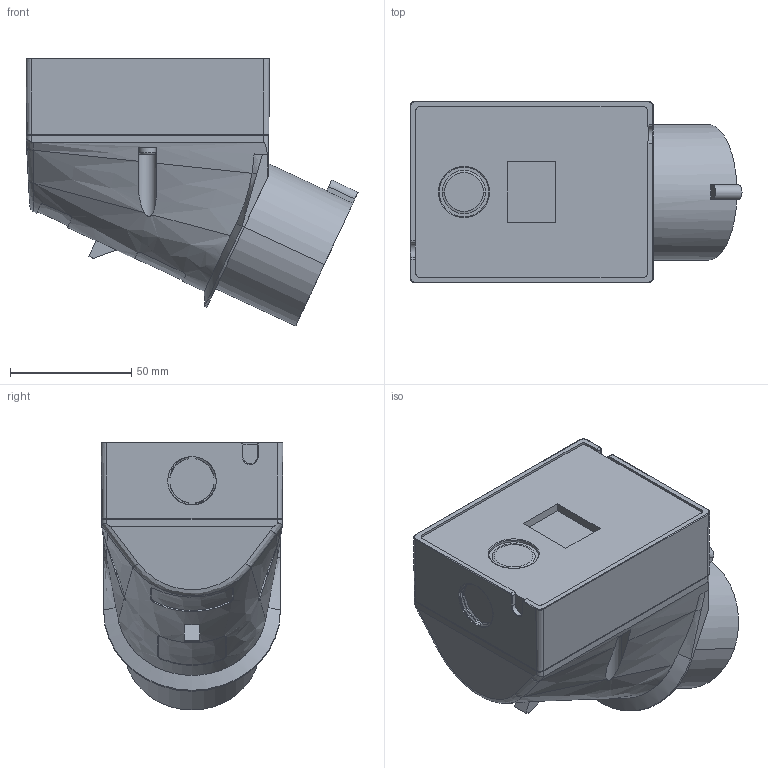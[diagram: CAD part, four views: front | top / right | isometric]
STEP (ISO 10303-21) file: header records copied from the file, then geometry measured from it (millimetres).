
FILE_DESCRIPTION((''),'2;1');
FILE_NAME('1116525_ASM_SW0001','2018-04-10T',('gisse'),('MENNEKES'),'PRO/ENGINEER BY PARAMETRIC TECHNOLOGY CORPORATION, 2015440','PRO/ENGINEER BY PARAMETRIC TECHNOLOGY CORPORATION, 2015440','');
FILE_SCHEMA(('AUTOMOTIVE_DESIGN { 1 0 10303 214 1 1 1 1 }'));
Length unit declared in the file: millimetre
Products named in the file (1): 1116525_ASM_SW0001
Bounding box: 137.09 x 75.05 x 110.64 mm (x, y, z)
Volume: 518444.2 mm3; surface area: 58600.8 mm2
Topology: 1 solids, 1 shells, 589 faces, 1485 edges, 933 vertices
Faces by surface type: plane 234, cylinder 120, bspline 100, cone 86, torus 49
Entity records: 33229 total; most frequent: CARTESIAN_POINT 9433, ORIENTED_EDGE 2962, DIRECTION 2378, PRESENTATION_STYLE_ASSIGNMENT 1970, STYLED_ITEM 1482, CURVE_STYLE 1481, EDGE_CURVE 1481, FILL_AREA_STYLE_COLOUR 977
